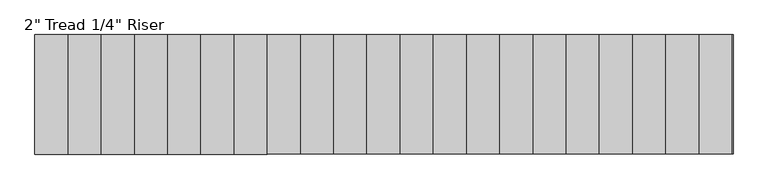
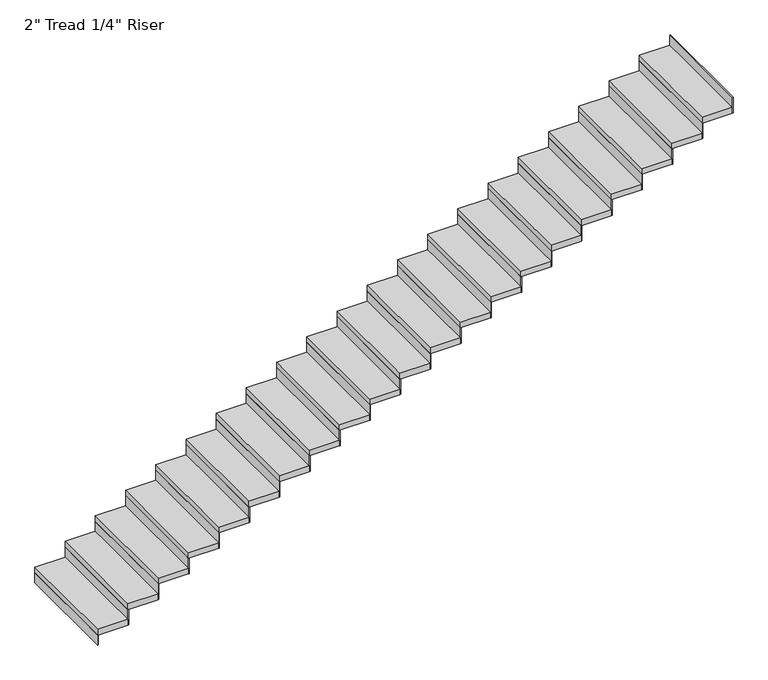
"""IFC4 building model written with IfcOpenShell, lengths in millimetres: stair flight geometry."""

from ifc_helpers import new_model, si_unit, frame, origin, origin_with_axes, place, context, project, spatial, polyline, outline, extrude, source, transform, mapped, element, save


def stair_flight_51c20a19(model_context):
    return source(origin(), model_context, "Body", "SweptSolid", [
        extrude(outline(polyline([(60465.3810647, 15846.0395941), (60459.0310647, 15846.0395941), (60459.0310647, 16760.4395941), (60465.3810647, 16760.4395941), (60465.3810647, 15846.0395941)])), origin_with_axes(), (0.0, 0.0, 1.0), 87.7454545),
        extrude(outline(polyline([(60713.0310647, 16760.4395941), (60713.0310647, 15846.0395941), (60459.0310647, 15846.0395941), (60459.0310647, 16760.4395941), (60713.0310647, 16760.4395941)])), frame((0.0, 0.0, 87.7454545), z_axis=(0.0, 0.0, 1.0), x_axis=(1.0, 0.0, 0.0)), (0.0, 0.0, 1.0), 50.8),
        extrude(outline(polyline([(60719.3810647, 15846.0395941), (60713.0310647, 15846.0395941), (60713.0310647, 16760.4395941), (60719.3810647, 16760.4395941), (60719.3810647, 15846.0395941)])), frame((0.0, 0.0, 87.7454545), z_axis=(0.0, 0.0, 1.0), x_axis=(1.0, 0.0, 0.0)), (0.0, 0.0, 1.0), 138.5454545),
        extrude(outline(polyline([(60967.0310647, 16760.4395941), (60967.0310647, 15846.0395941), (60713.0310647, 15846.0395941), (60713.0310647, 16760.4395941), (60967.0310647, 16760.4395941)])), frame((0.0, 0.0, 226.2909091), z_axis=(0.0, 0.0, 1.0), x_axis=(1.0, 0.0, 0.0)), (0.0, 0.0, 1.0), 50.8),
        extrude(outline(polyline([(60973.3810647, 15846.0395941), (60967.0310647, 15846.0395941), (60967.0310647, 16760.4395941), (60973.3810647, 16760.4395941), (60973.3810647, 15846.0395941)])), frame((0.0, 0.0, 226.2909091), z_axis=(0.0, 0.0, 1.0), x_axis=(1.0, 0.0, 0.0)), (0.0, 0.0, 1.0), 138.5454545),
        extrude(outline(polyline([(61221.0310647, 16760.4395941), (61221.0310647, 15846.0395941), (60967.0310647, 15846.0395941), (60967.0310647, 16760.4395941), (61221.0310647, 16760.4395941)])), frame((0.0, 0.0, 364.8363636), z_axis=(0.0, 0.0, 1.0), x_axis=(1.0, 0.0, 0.0)), (0.0, 0.0, 1.0), 50.8),
        extrude(outline(polyline([(61227.3810647, 15846.0395941), (61221.0310647, 15846.0395941), (61221.0310647, 16760.4395941), (61227.3810647, 16760.4395941), (61227.3810647, 15846.0395941)])), frame((0.0, 0.0, 364.8363636), z_axis=(0.0, 0.0, 1.0), x_axis=(1.0, 0.0, 0.0)), (0.0, 0.0, 1.0), 138.5454545),
        extrude(outline(polyline([(61475.0310647, 16760.4395941), (61475.0310647, 15846.0395941), (61221.0310647, 15846.0395941), (61221.0310647, 16760.4395941), (61475.0310647, 16760.4395941)])), frame((0.0, 0.0, 503.3818182), z_axis=(0.0, 0.0, 1.0), x_axis=(1.0, 0.0, 0.0)), (0.0, 0.0, 1.0), 50.8),
        extrude(outline(polyline([(61481.3810647, 15846.0395941), (61475.0310647, 15846.0395941), (61475.0310647, 16760.4395941), (61481.3810647, 16760.4395941), (61481.3810647, 15846.0395941)])), frame((0.0, 0.0, 503.3818182), z_axis=(0.0, 0.0, 1.0), x_axis=(1.0, 0.0, 0.0)), (0.0, 0.0, 1.0), 138.5454545),
        extrude(outline(polyline([(61729.0310647, 16760.4395941), (61729.0310647, 15846.0395941), (61475.0310647, 15846.0395941), (61475.0310647, 16760.4395941), (61729.0310647, 16760.4395941)])), frame((0.0, 0.0, 641.9272727), z_axis=(0.0, 0.0, 1.0), x_axis=(1.0, 0.0, 0.0)), (0.0, 0.0, 1.0), 50.8),
        extrude(outline(polyline([(61735.3810647, 15846.0395941), (61729.0310647, 15846.0395941), (61729.0310647, 16760.4395941), (61735.3810647, 16760.4395941), (61735.3810647, 15846.0395941)])), frame((0.0, 0.0, 641.9272727), z_axis=(0.0, 0.0, 1.0), x_axis=(1.0, 0.0, 0.0)), (0.0, 0.0, 1.0), 138.5454545),
        extrude(outline(polyline([(61983.0310647, 16760.4395941), (61983.0310647, 15846.0395941), (61729.0310647, 15846.0395941), (61729.0310647, 16760.4395941), (61983.0310647, 16760.4395941)])), frame((0.0, 0.0, 780.4727273), z_axis=(0.0, 0.0, 1.0), x_axis=(1.0, 0.0, 0.0)), (0.0, 0.0, 1.0), 50.8),
        extrude(outline(polyline([(61989.3810647, 15846.0395941), (61983.0310647, 15846.0395941), (61983.0310647, 16760.4395941), (61989.3810647, 16760.4395941), (61989.3810647, 15846.0395941)])), frame((0.0, 0.0, 780.4727273), z_axis=(0.0, 0.0, 1.0), x_axis=(1.0, 0.0, 0.0)), (0.0, 0.0, 1.0), 138.5454545),
        extrude(outline(polyline([(62237.0310647, 16760.4395941), (62237.0310647, 15846.0395941), (61983.0310647, 15846.0395941), (61983.0310647, 16760.4395941), (62237.0310647, 16760.4395941)])), frame((0.0, 0.0, 919.0181818), z_axis=(0.0, 0.0, 1.0), x_axis=(1.0, 0.0, 0.0)), (0.0, 0.0, 1.0), 50.8),
        extrude(outline(polyline([(62243.3810647, 15846.0395941), (62237.0310647, 15846.0395941), (62237.0310647, 16760.4395941), (62243.3810647, 16760.4395941), (62243.3810647, 15846.0395941)])), frame((0.0, 0.0, 919.0181818), z_axis=(0.0, 0.0, 1.0), x_axis=(1.0, 0.0, 0.0)), (0.0, 0.0, 1.0), 138.5454545),
        extrude(outline(polyline([(62491.0310647, 16760.4395941), (62491.0310647, 15846.0395941), (62237.0310647, 15846.0395941), (62237.0310647, 16760.4395941), (62491.0310647, 16760.4395941)])), frame((0.0, 0.0, 1057.5636364), z_axis=(0.0, 0.0, 1.0), x_axis=(1.0, 0.0, 0.0)), (0.0, 0.0, 1.0), 50.8),
        extrude(outline(polyline([(62497.3810647, 15846.0395941), (62491.0310647, 15846.0395941), (62491.0310647, 16760.4395941), (62497.3810647, 16760.4395941), (62497.3810647, 15846.0395941)])), frame((0.0, 0.0, 1057.5636364), z_axis=(0.0, 0.0, 1.0), x_axis=(1.0, 0.0, 0.0)), (0.0, 0.0, 1.0), 138.5454545),
        extrude(outline(polyline([(62745.0310647, 16760.4395941), (62745.0310647, 15846.0395941), (62491.0310647, 15846.0395941), (62491.0310647, 16760.4395941), (62745.0310647, 16760.4395941)])), frame((0.0, 0.0, 1196.1090909), z_axis=(0.0, 0.0, 1.0), x_axis=(1.0, 0.0, 0.0)), (0.0, 0.0, 1.0), 50.8),
        extrude(outline(polyline([(62751.3810647, 15846.0395941), (62745.0310647, 15846.0395941), (62745.0310647, 16760.4395941), (62751.3810647, 16760.4395941), (62751.3810647, 15846.0395941)])), frame((0.0, 0.0, 1196.1090909), z_axis=(0.0, 0.0, 1.0), x_axis=(1.0, 0.0, 0.0)), (0.0, 0.0, 1.0), 138.5454545),
        extrude(outline(polyline([(62999.0310647, 16760.4395941), (62999.0310647, 15846.0395941), (62745.0310647, 15846.0395941), (62745.0310647, 16760.4395941), (62999.0310647, 16760.4395941)])), frame((0.0, 0.0, 1334.6545455), z_axis=(0.0, 0.0, 1.0), x_axis=(1.0, 0.0, 0.0)), (0.0, 0.0, 1.0), 50.8),
        extrude(outline(polyline([(63005.3810647, 15846.0395941), (62999.0310647, 15846.0395941), (62999.0310647, 16760.4395941), (63005.3810647, 16760.4395941), (63005.3810647, 15846.0395941)])), frame((0.0, 0.0, 1334.6545455), z_axis=(0.0, 0.0, 1.0), x_axis=(1.0, 0.0, 0.0)), (0.0, 0.0, 1.0), 138.5454545),
        extrude(outline(polyline([(63253.0310647, 16760.4395941), (63253.0310647, 15846.0395941), (62999.0310647, 15846.0395941), (62999.0310647, 16760.4395941), (63253.0310647, 16760.4395941)])), frame((0.0, 0.0, 1473.2), z_axis=(0.0, 0.0, 1.0), x_axis=(1.0, 0.0, 0.0)), (0.0, 0.0, 1.0), 50.8),
        extrude(outline(polyline([(63259.3810647, 15846.0395941), (63253.0310647, 15846.0395941), (63253.0310647, 16760.4395941), (63259.3810647, 16760.4395941), (63259.3810647, 15846.0395941)])), frame((0.0, 0.0, 1473.2), z_axis=(0.0, 0.0, 1.0), x_axis=(1.0, 0.0, 0.0)), (0.0, 0.0, 1.0), 138.5454545),
        extrude(outline(polyline([(63507.0310647, 16760.4395941), (63507.0310647, 15846.0395941), (63253.0310647, 15846.0395941), (63253.0310647, 16760.4395941), (63507.0310647, 16760.4395941)])), frame((0.0, 0.0, 1611.7454545), z_axis=(0.0, 0.0, 1.0), x_axis=(1.0, 0.0, 0.0)), (0.0, 0.0, 1.0), 50.8),
        extrude(outline(polyline([(63513.3810647, 15846.0395941), (63507.0310647, 15846.0395941), (63507.0310647, 16760.4395941), (63513.3810647, 16760.4395941), (63513.3810647, 15846.0395941)])), frame((0.0, 0.0, 1611.7454545), z_axis=(0.0, 0.0, 1.0), x_axis=(1.0, 0.0, 0.0)), (0.0, 0.0, 1.0), 138.5454545),
        extrude(outline(polyline([(63761.0310647, 16760.4395941), (63761.0310647, 15846.0395941), (63507.0310647, 15846.0395941), (63507.0310647, 16760.4395941), (63761.0310647, 16760.4395941)])), frame((0.0, 0.0, 1750.2909091), z_axis=(0.0, 0.0, 1.0), x_axis=(1.0, 0.0, 0.0)), (0.0, 0.0, 1.0), 50.8),
        extrude(outline(polyline([(63767.3810647, 15846.0395941), (63761.0310647, 15846.0395941), (63761.0310647, 16760.4395941), (63767.3810647, 16760.4395941), (63767.3810647, 15846.0395941)])), frame((0.0, 0.0, 1750.2909091), z_axis=(0.0, 0.0, 1.0), x_axis=(1.0, 0.0, 0.0)), (0.0, 0.0, 1.0), 138.5454545),
        extrude(outline(polyline([(64015.0310647, 16760.4395941), (64015.0310647, 15846.0395941), (63761.0310647, 15846.0395941), (63761.0310647, 16760.4395941), (64015.0310647, 16760.4395941)])), frame((0.0, 0.0, 1888.8363636), z_axis=(0.0, 0.0, 1.0), x_axis=(1.0, 0.0, 0.0)), (0.0, 0.0, 1.0), 50.8),
        extrude(outline(polyline([(64021.3810647, 15846.0395941), (64015.0310647, 15846.0395941), (64015.0310647, 16760.4395941), (64021.3810647, 16760.4395941), (64021.3810647, 15846.0395941)])), frame((0.0, 0.0, 1888.8363636), z_axis=(0.0, 0.0, 1.0), x_axis=(1.0, 0.0, 0.0)), (0.0, 0.0, 1.0), 138.5454545),
        extrude(outline(polyline([(64269.0310647, 16760.4395941), (64269.0310647, 15846.0395941), (64015.0310647, 15846.0395941), (64015.0310647, 16760.4395941), (64269.0310647, 16760.4395941)])), frame((0.0, 0.0, 2027.3818182), z_axis=(0.0, 0.0, 1.0), x_axis=(1.0, 0.0, 0.0)), (0.0, 0.0, 1.0), 50.8),
        extrude(outline(polyline([(64275.3810647, 15846.0395941), (64269.0310647, 15846.0395941), (64269.0310647, 16760.4395941), (64275.3810647, 16760.4395941), (64275.3810647, 15846.0395941)])), frame((0.0, 0.0, 2027.3818182), z_axis=(0.0, 0.0, 1.0), x_axis=(1.0, 0.0, 0.0)), (0.0, 0.0, 1.0), 138.5454545),
        extrude(outline(polyline([(64523.0310647, 16760.4395941), (64523.0310647, 15846.0395941), (64269.0310647, 15846.0395941), (64269.0310647, 16760.4395941), (64523.0310647, 16760.4395941)])), frame((0.0, 0.0, 2165.9272727), z_axis=(0.0, 0.0, 1.0), x_axis=(1.0, 0.0, 0.0)), (0.0, 0.0, 1.0), 50.8),
        extrude(outline(polyline([(64529.3810647, 15846.0395941), (64523.0310647, 15846.0395941), (64523.0310647, 16760.4395941), (64529.3810647, 16760.4395941), (64529.3810647, 15846.0395941)])), frame((0.0, 0.0, 2165.9272727), z_axis=(0.0, 0.0, 1.0), x_axis=(1.0, 0.0, 0.0)), (0.0, 0.0, 1.0), 138.5454545),
        extrude(outline(polyline([(64777.0310647, 16760.4395941), (64777.0310647, 15846.0395941), (64523.0310647, 15846.0395941), (64523.0310647, 16760.4395941), (64777.0310647, 16760.4395941)])), frame((0.0, 0.0, 2304.4727273), z_axis=(0.0, 0.0, 1.0), x_axis=(1.0, 0.0, 0.0)), (0.0, 0.0, 1.0), 50.8),
        extrude(outline(polyline([(64783.3810647, 15846.0395941), (64777.0310647, 15846.0395941), (64777.0310647, 16760.4395941), (64783.3810647, 16760.4395941), (64783.3810647, 15846.0395941)])), frame((0.0, 0.0, 2304.4727273), z_axis=(0.0, 0.0, 1.0), x_axis=(1.0, 0.0, 0.0)), (0.0, 0.0, 1.0), 138.5454545),
        extrude(outline(polyline([(65031.0310647, 16760.4395941), (65031.0310647, 15846.0395941), (64777.0310647, 15846.0395941), (64777.0310647, 16760.4395941), (65031.0310647, 16760.4395941)])), frame((0.0, 0.0, 2443.0181818), z_axis=(0.0, 0.0, 1.0), x_axis=(1.0, 0.0, 0.0)), (0.0, 0.0, 1.0), 50.8),
        extrude(outline(polyline([(65037.3810647, 15846.0395941), (65031.0310647, 15846.0395941), (65031.0310647, 16760.4395941), (65037.3810647, 16760.4395941), (65037.3810647, 15846.0395941)])), frame((0.0, 0.0, 2443.0181818), z_axis=(0.0, 0.0, 1.0), x_axis=(1.0, 0.0, 0.0)), (0.0, 0.0, 1.0), 138.5454545),
        extrude(outline(polyline([(65285.0310647, 16760.4395941), (65285.0310647, 15846.0395941), (65031.0310647, 15846.0395941), (65031.0310647, 16760.4395941), (65285.0310647, 16760.4395941)])), frame((0.0, 0.0, 2581.5636364), z_axis=(0.0, 0.0, 1.0), x_axis=(1.0, 0.0, 0.0)), (0.0, 0.0, 1.0), 50.8),
        extrude(outline(polyline([(65291.3810647, 15846.0395941), (65285.0310647, 15846.0395941), (65285.0310647, 16760.4395941), (65291.3810647, 16760.4395941), (65291.3810647, 15846.0395941)])), frame((0.0, 0.0, 2581.5636364), z_axis=(0.0, 0.0, 1.0), x_axis=(1.0, 0.0, 0.0)), (0.0, 0.0, 1.0), 138.5454545),
        extrude(outline(polyline([(65539.0310647, 16760.4395941), (65539.0310647, 15846.0395941), (65285.0310647, 15846.0395941), (65285.0310647, 16760.4395941), (65539.0310647, 16760.4395941)])), frame((0.0, 0.0, 2720.1090909), z_axis=(0.0, 0.0, 1.0), x_axis=(1.0, 0.0, 0.0)), (0.0, 0.0, 1.0), 50.8),
        extrude(outline(polyline([(65545.3810647, 15846.0395941), (65539.0310647, 15846.0395941), (65539.0310647, 16760.4395941), (65545.3810647, 16760.4395941), (65545.3810647, 15846.0395941)])), frame((0.0, 0.0, 2720.1090909), z_axis=(0.0, 0.0, 1.0), x_axis=(1.0, 0.0, 0.0)), (0.0, 0.0, 1.0), 138.5454545),
        extrude(outline(polyline([(65799.3810647, 15846.0395941), (65793.0310647, 15846.0395941), (65793.0310647, 16760.4395941), (65799.3810647, 16760.4395941), (65799.3810647, 15846.0395941)])), frame((0.0, 0.0, 2858.6545455), z_axis=(0.0, 0.0, 1.0), x_axis=(1.0, 0.0, 0.0)), (0.0, 0.0, 1.0), 138.5454545),
        extrude(outline(polyline([(65793.0310647, 16760.4395941), (65793.0310647, 15846.0395941), (65539.0310647, 15846.0395941), (65539.0310647, 16760.4395941), (65793.0310647, 16760.4395941)])), frame((0.0, 0.0, 2858.6545455), z_axis=(0.0, 0.0, 1.0), x_axis=(1.0, 0.0, 0.0)), (0.0, 0.0, 1.0), 50.8),
    ])


if __name__ == "__main__":
    model = new_model("IFC4")
    model_context = context("Model", 3, world=origin())
    ifc_project = project(units=[si_unit("LENGTHUNIT", "METRE", prefix="MILLI")], contexts=[model_context])
    site = spatial("IfcSite", under=ifc_project)
    building = spatial("IfcBuilding", under=site)
    placement = place(None, origin())
    stair_flight_shape = stair_flight_51c20a19(model_context)
    element("IfcStairFlight", 1, ObjectType="2\" Tread 1/4\" Riser", at=placement, inside=building, context=model_context, shape_type="MappedRepresentation", body=[
        mapped(stair_flight_shape, transform((0.0, 0.0, 0.0), x_axis=(1.0, 0.0, 0.0), y_axis=(0.0, 1.0, 0.0), z_axis=(0.0, 0.0, 1.0))),
    ])
    save(model, "model.ifc")
